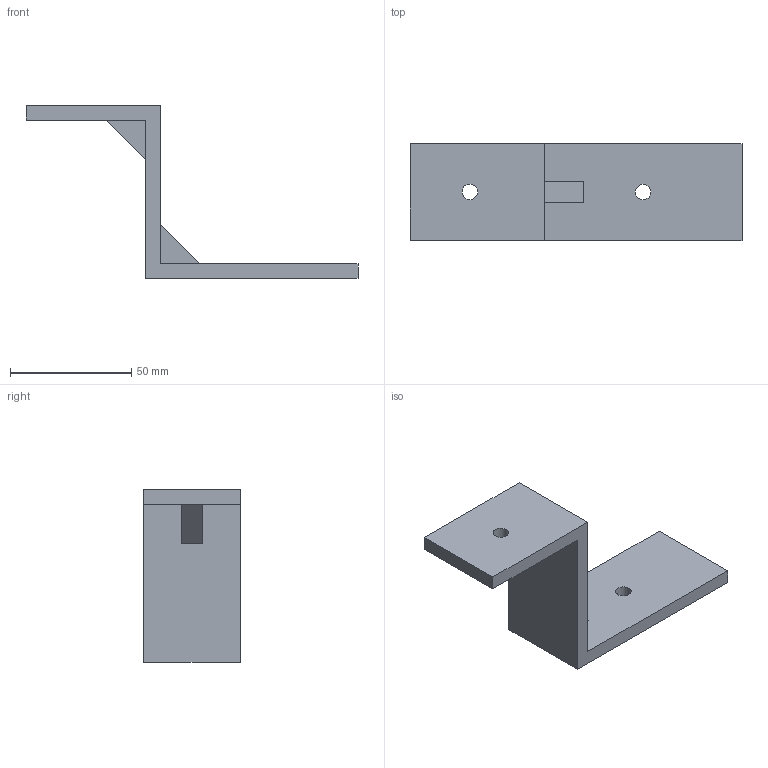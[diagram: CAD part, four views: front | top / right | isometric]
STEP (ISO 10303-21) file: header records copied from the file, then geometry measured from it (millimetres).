
FILE_DESCRIPTION(('Mechanical CAD reference from nasji.com'),'2;1');
FILE_NAME('NASJI.step','',(''),(''),'','NASJI distribution','');
FILE_SCHEMA(('AUTOMOTIVE_DESIGN { 1 0 10303 214 1 1 1 1 }'));
Length unit declared in the file: millimetre
Products named in the file (1): Open CASCADE STEP translator 7.8 168
Bounding box: 137.1 x 40 x 71.4 mm (x, y, z)
Volume: 50512 mm3; surface area: 19578.3 mm2
Topology: 1 solids, 1 shells, 18 faces, 48 edges, 32 vertices
Faces by surface type: plane 16, cylinder 2
Full cylindrical faces by diameter (mm): 6.4 x2
Entity records: 1204 total; most frequent: CARTESIAN_POINT 225, DIRECTION 176, LINE 130, VECTOR 130, ORIENTED_EDGE 96, PCURVE 96, DEFINITIONAL_REPRESENTATION 96, EDGE_CURVE 48
